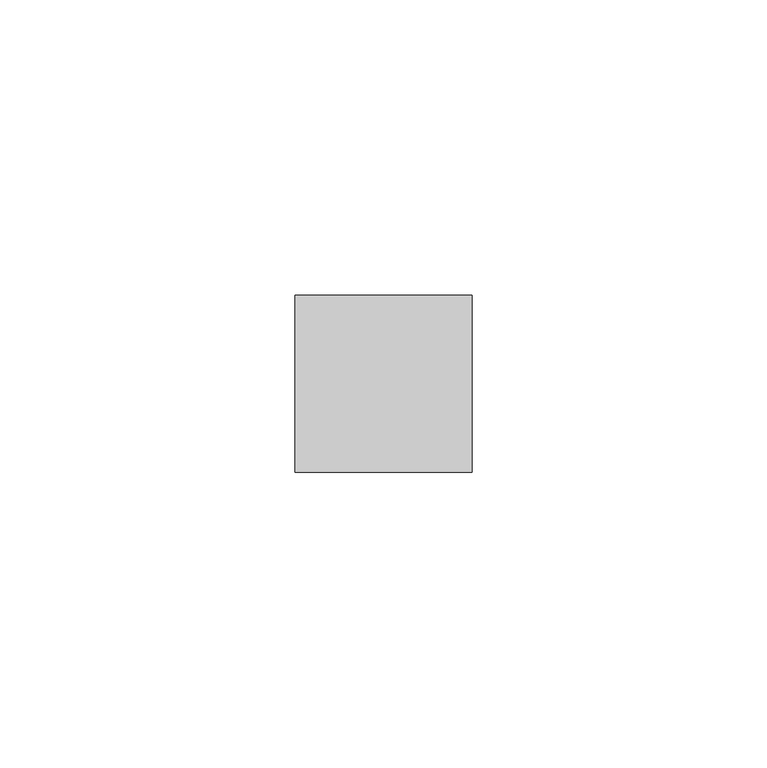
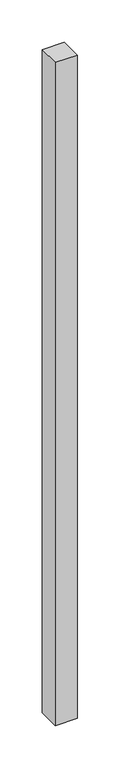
"""IFC4 building model written with IfcOpenShell, lengths in millimetres: member geometry, 矩形竖梃 : 30mm 正方形."""

from ifc_helpers import new_model, si_unit, frame, origin, place, context, project, spatial, polyline, outline, extrude, source, transform, mapped, element, save


def member_ed4e6baa(model_context):
    return source(origin(), model_context, "Body", "SweptSolid", [
        extrude(outline(polyline([(15.0, 15.0), (15.0, -15.0), (-15.0, -15.0), (-15.0, 15.0), (15.0, 15.0)])), frame((0.0, 0.0, -955.0), z_axis=(0.0, 0.0, 1.0), x_axis=(1.0, 0.0, 0.0)), (0.0, 0.0, 1.0), 955.0),
    ])


if __name__ == "__main__":
    model = new_model("IFC4")
    model_context = context("Model", 3, world=origin())
    ifc_project = project(units=[si_unit("LENGTHUNIT", "METRE", prefix="MILLI")], contexts=[model_context])
    site = spatial("IfcSite", under=ifc_project)
    building = spatial("IfcBuilding", under=site)
    placement = place(None, origin())
    member_shape = member_ed4e6baa(model_context)
    element("IfcMember", 1, ObjectType="矩形竖梃 : 30mm 正方形", at=placement, inside=building, context=model_context, shape_type="MappedRepresentation", body=[
        mapped(member_shape, transform((0.0, 0.0, 0.0), x_axis=(1.0, 0.0, 0.0), y_axis=(0.0, 1.0, 0.0), z_axis=(0.0, 0.0, 1.0))),
    ])
    save(model, "model.ifc")
